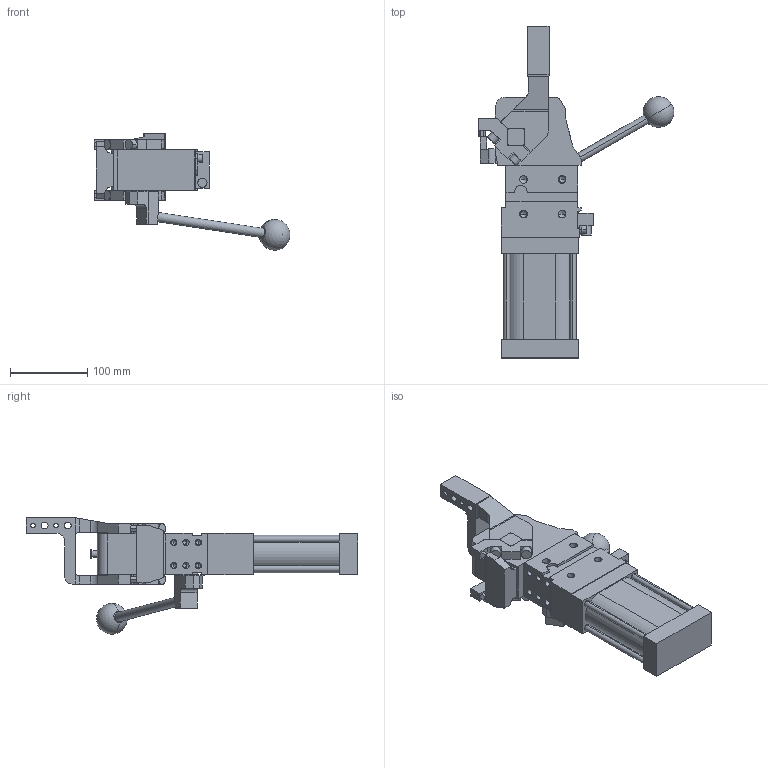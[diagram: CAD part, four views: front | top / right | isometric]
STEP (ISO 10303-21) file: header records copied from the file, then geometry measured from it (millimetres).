
FILE_DESCRIPTION (( 'STEP AP214' ), '1' );
FILE_NAME ('cplm63lbth1ssi1g_75.STEP', '2023-01-26T14:46:48', ( '' ), ( '' ), 'SwSTEP 2.0', 'SolidWorks 2022', '' );
FILE_SCHEMA (( 'AUTOMOTIVE_DESIGN' ));
Length unit declared in the file: millimetre
Products named in the file (5): leva_h1ss_cpl63t; cplm63lbth1ssi1g_75; meccanica_cplm_63_tassello_esterno; blocchetto_VEP_0; comando_manuale_cplm_63
Assembly tree (4 placements, depth 2):
  cplm63lbth1ssi1g_75
    meccanica_cplm_63_tassello_esterno
    blocchetto_VEP_0
    leva_h1ss_cpl63t
    comando_manuale_cplm_63
Bounding box: 253.96 x 430.5 x 151 mm (x, y, z)
Volume: 1909933.2 mm3; surface area: 216710.5 mm2
Topology: 4 solids, 4 shells, 467 faces, 1233 edges, 769 vertices
Faces by surface type: plane 248, cylinder 167, cone 50, sphere 2
Entity records: 15710 total; most frequent: CARTESIAN_POINT 2524, DIRECTION 2488, ORIENTED_EDGE 2364, EDGE_CURVE 1182, AXIS2_PLACEMENT_3D 844, LINE 800, VECTOR 800, VERTEX_POINT 766
